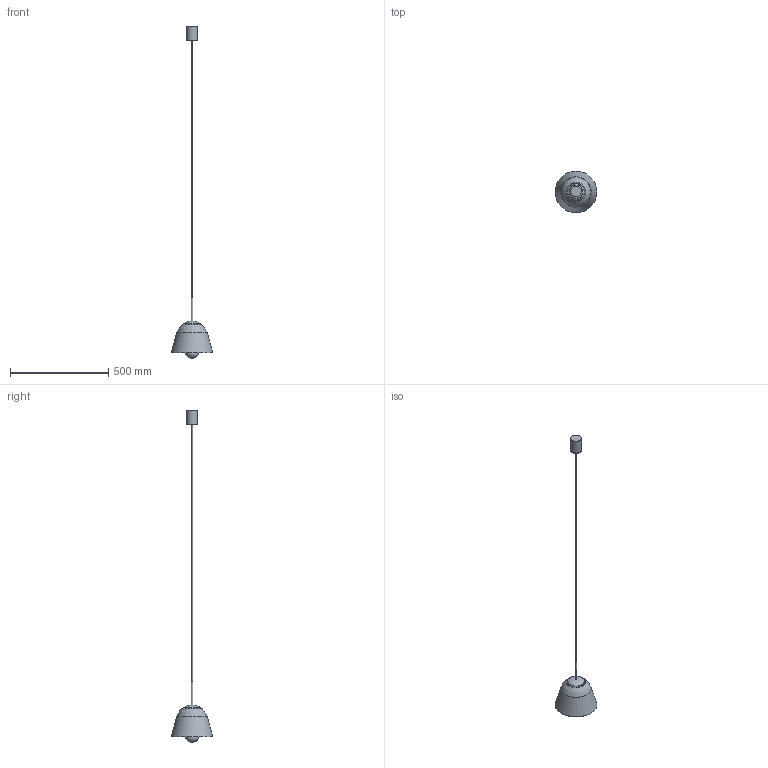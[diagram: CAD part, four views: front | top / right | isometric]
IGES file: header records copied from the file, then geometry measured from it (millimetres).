
Start section: SolidWorks IGES file using analytic representation for surfaces
Global section: file name: X:\PRODUKT\Modele 3D_WWW\_KOLEKCJE WWW\PEAR\8673\PEAR-S-8673.IGS; native system: SolidWorks 2021; preprocessor: SolidWorks 2021; author: gabriela.tworek; date: 220916.133228; units: millimetre
Bounding box: 211.66 x 211.66 x 1686.84 mm (x, y, z)
Surface area: 293474.3 mm2 (no closed solid volume)
Topology: 0 solids, 0 shells, 167 faces, 588 edges, 511 vertices
Faces by surface type: revolution 85, bspline 82
